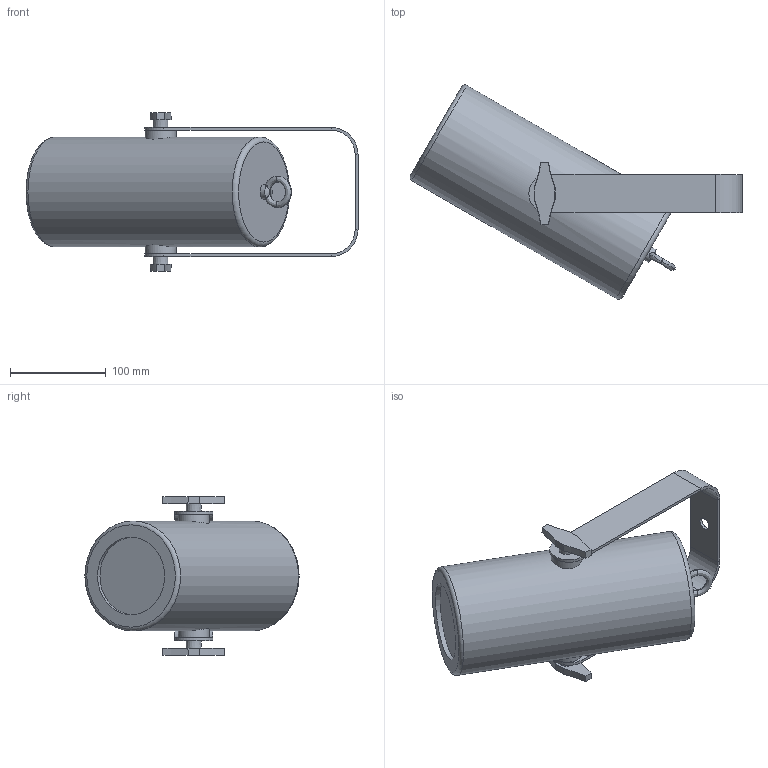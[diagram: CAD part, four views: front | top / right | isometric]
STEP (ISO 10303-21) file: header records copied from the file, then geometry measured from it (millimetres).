
FILE_DESCRIPTION(/* description */ (''),/* implementation_level */ '2;1');
FILE_NAME(/* name */ 'D:/dgooch/Documents/CADENG/PRO/Ovation H-55WW/30/3D/Ovation H-55WW_30.step',/* time_stamp */ '2019-11-13T10:16:53-05:00',/* author */ (''),/* organization */ (''),/* preprocessor_version */ 'ST-DEVELOPER v18',/* originating_system */ 'Autodesk Translation Framework v8.12.0.6',/* authorisation */ '');
FILE_SCHEMA (('AUTOMOTIVE_DESIGN { 1 0 10303 214 3 1 1 }'));
Length unit declared in the file: millimetre
Products named in the file (3): Ovation Mini Houselight; Bracket; Mian
Assembly tree (2 placements, depth 2):
  Ovation Mini Houselight
    Bracket
    Mian
Bounding box: 347.32 x 224.15 x 165.71 mm (x, y, z)
Volume: 2725634.8 mm3; surface area: 175635.8 mm2
Topology: 2 solids, 2 shells, 67 faces, 157 edges, 100 vertices
Faces by surface type: plane 34, cylinder 14, cone 11, bspline 6, torus 2
Full cylindrical faces by diameter (mm): 8.1 x2, 13 x1, 15.3 x1, 32.439 x2, 81 x1, 115 x1
Entity records: 3838 total; most frequent: CARTESIAN_POINT 2239, DIRECTION 317, ORIENTED_EDGE 314, EDGE_CURVE 157, AXIS2_PLACEMENT_3D 126, VERTEX_POINT 100, EDGE_LOOP 81, FACE_OUTER_BOUND 67
